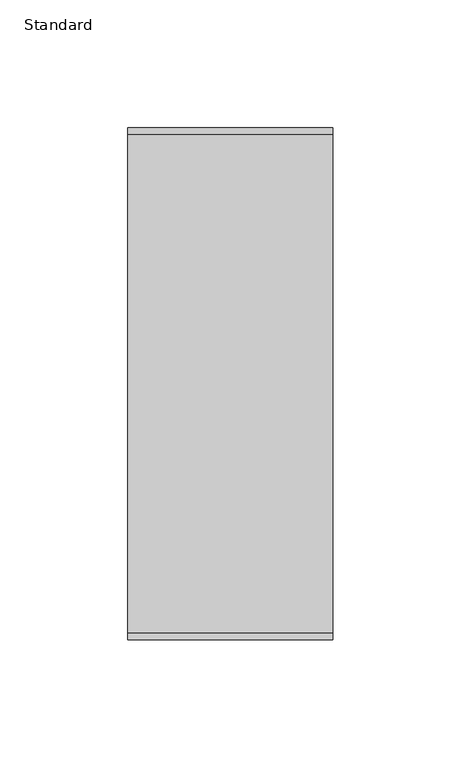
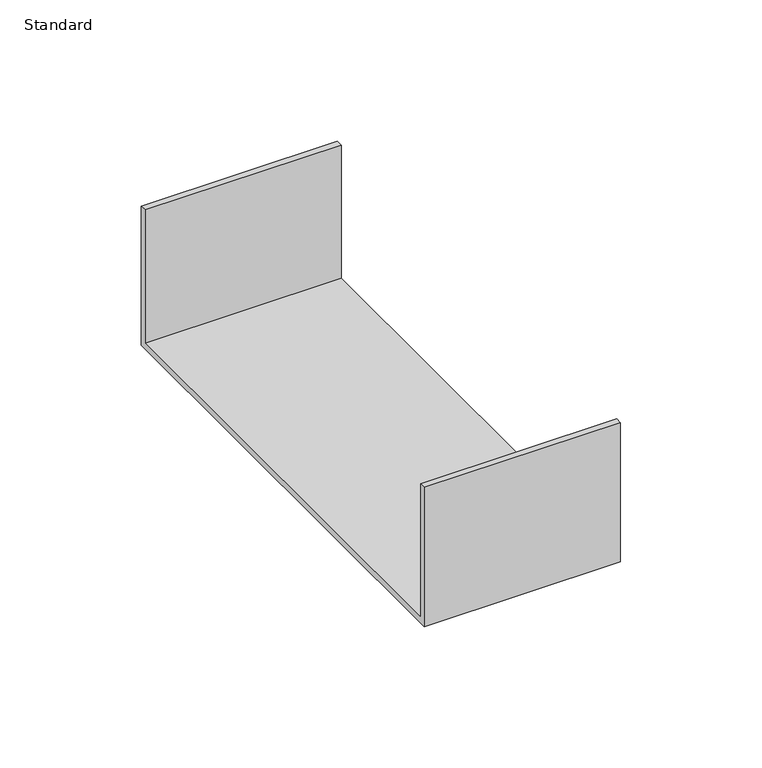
"""IFC4 building model written with IfcOpenShell, lengths in millimetres: cable carrier fitting geometry, Chemin de câbles - Union : Standard."""

import ifcopenshell
import ifcopenshell.guid

model = None  # the IFC model being written
_history = None  # IfcOwnerHistory: only IFC2X3 demands one
_inside = {}  # id of a spatial element -> (the spatial element, [elements in it])
_under = {}  # id of a project, library or spatial element -> (it, [spatial elements below it])
_declared = {}  # id of a project -> (the project, [libraries it declares])
_typed = {}  # id of a type object -> (the type object, [elements of that type])
_made_of = {}  # id of a material, layer set ... -> (it, [elements and type objects made of it])


def new_model(schema):
    """Start an empty IFC model of exactly this schema.

    Asked for "IFC4X3", IfcOpenShell would pick the latest addendum, in which some entities
    have other attributes; the version numbers below select the first issue.
    IFC2X3 requires an IfcOwnerHistory on every rooted entity: one is made here for all.
    """
    global model, _history
    if schema == "IFC4X3":
        model = ifcopenshell.file(schema_version=(4, 3, 0, 0))
    else:
        model = ifcopenshell.file(schema=schema)
    _inside.clear()
    _under.clear()
    _declared.clear()
    _typed.clear()
    _made_of.clear()
    _history = None
    if model.schema == "IFC2X3":
        org = make("IfcOrganization", Name="unknown")
        user = make(
            "IfcPersonAndOrganization",
            ThePerson=make("IfcPerson", FamilyName="unknown"),
            TheOrganization=org,
        )
        app = make(
            "IfcApplication",
            ApplicationDeveloper=org,
            Version="unknown",
            ApplicationFullName="unknown",
            ApplicationIdentifier="unknown",
        )
        _history = make(
            "IfcOwnerHistory",
            OwningUser=user,
            OwningApplication=app,
            ChangeAction="ADDED",
            CreationDate=0,
        )
    return model


def make(cls, **values):
    """One entity of the class cls with the attributes given. An attribute that is None is left unset."""
    return model.create_entity(
        cls, **{name: value for name, value in values.items() if value is not None}
    )


def rooted(cls, **values):
    """An entity with a GlobalId (a new one), such as an element, a storey or a relation."""
    return make(cls, GlobalId=ifcopenshell.guid.new(), OwnerHistory=_history, **values)


def si_unit(unit_type, name, prefix=None):
    """IfcSIUnit, for example si_unit("LENGTHUNIT", "METRE", prefix="MILLI")."""
    return make("IfcSIUnit", UnitType=unit_type, Prefix=prefix, Name=name)


def assignment(units):
    """IfcUnitAssignment: the units of a project."""
    return None if units is None else make("IfcUnitAssignment", Units=units)


def point(xyz):
    """IfcCartesianPoint."""
    return None if xyz is None else make("IfcCartesianPoint", Coordinates=xyz)


def direction(xyz):
    """IfcDirection."""
    return None if xyz is None else make("IfcDirection", DirectionRatios=xyz)


def frame(location, z_axis=None, x_axis=None):
    """IfcAxis2Placement3D, a coordinate frame: its origin and axes. An axis left out is left unset."""
    return make(
        "IfcAxis2Placement3D",
        Location=point(location),
        Axis=direction(z_axis),
        RefDirection=direction(x_axis),
    )


def origin():
    """The frame at (0, 0, 0) with its axes left unset."""
    return frame((0.0, 0.0, 0.0))


def place(relative_to, where):
    """IfcLocalPlacement: puts the frame where relative to a parent placement (None: the world)."""
    return make(
        "IfcLocalPlacement", PlacementRelTo=relative_to, RelativePlacement=where
    )


def context(
    kind, dimensions, precision=None, world=None, true_north=None, identifier=None
):
    """IfcGeometricRepresentationContext, for example the 3D "Model" context."""
    return make(
        "IfcGeometricRepresentationContext",
        ContextIdentifier=identifier,
        ContextType=kind,
        CoordinateSpaceDimension=dimensions,
        Precision=precision,
        WorldCoordinateSystem=world,
        TrueNorth=true_north,
    )


def project(units=None, contexts=None):
    """IfcProject with its units and contexts."""
    return rooted(
        "IfcProject",
        Name="project",
        RepresentationContexts=contexts,
        UnitsInContext=assignment(units),
    )


def spatial(cls, under=None, at=None, **own):
    """A site, building, storey or space (cls), placed at a placement, below another one or the project."""
    s = rooted(cls, ObjectPlacement=at, **own)
    if under is not None:
        _under.setdefault(under.id(), (under, []))[1].append(s)
    return s


def polyline(points):
    """IfcPolyline through the points."""
    return make("IfcPolyline", Points=[point(p) for p in points])


def outline(outer, holes=None, kind="AREA"):
    """IfcArbitraryClosedProfileDef: a profile drawn as a closed curve; with holes, ...WithVoids."""
    if holes is None:
        return make("IfcArbitraryClosedProfileDef", ProfileType=kind, OuterCurve=outer)
    return make(
        "IfcArbitraryProfileDefWithVoids",
        ProfileType=kind,
        OuterCurve=outer,
        InnerCurves=holes,
    )


def extrude(swept, where, along, depth):
    """IfcExtrudedAreaSolid: the profile swept, set in the frame where, extruded along a direction by depth."""
    return make(
        "IfcExtrudedAreaSolid",
        SweptArea=swept,
        Position=where,
        ExtrudedDirection=direction(along),
        Depth=depth,
    )


def shape(context_of_items, identifier, shape_type, items):
    """IfcShapeRepresentation: the items that make up one representation, for example the "Body"."""
    return make(
        "IfcShapeRepresentation",
        ContextOfItems=context_of_items,
        RepresentationIdentifier=identifier,
        RepresentationType=shape_type,
        Items=items,
    )


def source(mapping_origin, context_of_items, identifier, shape_type, items):
    """IfcRepresentationMap: a shape defined once, which mapped items show again and again."""
    return make(
        "IfcRepresentationMap",
        MappingOrigin=mapping_origin,
        MappedRepresentation=shape(context_of_items, identifier, shape_type, items),
    )


def transform(
    local_origin,
    x_axis=None,
    y_axis=None,
    z_axis=None,
    scale=None,
    scale2=None,
    scale3=None,
    uniform=True,
):
    """IfcCartesianTransformationOperator3D, or its non-uniform kind. x_axis, y_axis, z_axis: its Axis1, 2, 3."""
    if uniform:
        return make(
            "IfcCartesianTransformationOperator3D",
            Axis1=direction(x_axis),
            Axis2=direction(y_axis),
            LocalOrigin=point(local_origin),
            Scale=scale,
            Axis3=direction(z_axis),
        )
    return make(
        "IfcCartesianTransformationOperator3DnonUniform",
        Axis1=direction(x_axis),
        Axis2=direction(y_axis),
        LocalOrigin=point(local_origin),
        Scale=scale,
        Axis3=direction(z_axis),
        Scale2=scale2,
        Scale3=scale3,
    )


def mapped(mapping_source, mapping_target):
    """IfcMappedItem: shows the shape of a source again, moved by a transform."""
    return make(
        "IfcMappedItem", MappingSource=mapping_source, MappingTarget=mapping_target
    )


def made_of(thing, what):
    """Note that an element or type object is made of a material, layer set ...; save() writes the relation."""
    if what is not None:
        _made_of.setdefault(what.id(), (what, []))[1].append(thing)
    return thing


def element(
    cls,
    number,
    at=None,
    inside=None,
    cuts=None,
    type_object=None,
    material=None,
    context=None,
    identifier="Body",
    shape_type=None,
    held_by="IfcProductDefinitionShape",
    body=None,
    shapes=None,
    **own,
):
    """One element of the class cls, such as IfcWall. Its Tag is "e" and its number.

    at: its placement. inside: the storey or other place that contains it. cuts: it is an
    opening in that element (IfcRelVoidsElement). A single representation is given by context,
    identifier, shape_type and body (its items); several are given by shapes. held_by: the class
    of the entity that holds the representations. save() writes the other relations.
    """
    e = rooted(cls, Tag="e%d" % number, ObjectPlacement=at, **own)
    if body is not None:
        shapes = [shape(context, identifier, shape_type, body)]
    if shapes is not None:
        e.Representation = make(held_by, Representations=shapes)
    if inside is not None:
        _inside.setdefault(inside.id(), (inside, []))[1].append(e)
    if cuts is not None:
        rooted(
            "IfcRelVoidsElement", RelatingBuildingElement=cuts, RelatedOpeningElement=e
        )
    if type_object is not None:
        _typed.setdefault(type_object.id(), (type_object, []))[1].append(e)
    return made_of(e, material)


def aggregate(whole, parts):
    """IfcRelAggregates: a whole, such as a stair, and the parts it consists of."""
    return rooted("IfcRelAggregates", RelatingObject=whole, RelatedObjects=parts)


def save(model, path):
    """Write the relations noted so far, then the file.

    IfcRelAggregates (storeys below a building ...), IfcRelContainedInSpatialStructure (elements
    in a storey), IfcRelDefinesByType, IfcRelAssociatesMaterial and IfcRelDeclares: one each for
    every whole, place, type object, material and project.
    """
    for whole, parts in _under.values():
        aggregate(whole, parts)
    for where, things in _inside.values():
        rooted(
            "IfcRelContainedInSpatialStructure",
            RelatedElements=things,
            RelatingStructure=where,
        )
    for kind, things in _typed.values():
        rooted("IfcRelDefinesByType", RelatedObjects=things, RelatingType=kind)
    for what, things in _made_of.values():
        rooted("IfcRelAssociatesMaterial", RelatedObjects=things, RelatingMaterial=what)
    for by, libraries in _declared.values():
        rooted("IfcRelDeclares", RelatingContext=by, RelatedDefinitions=libraries)
    model.write(path)


def standard_8ca7ba67(model_context):
    return source(origin(), model_context, "Body", "SweptSolid", [
        extrude(outline(polyline([(-100.0, -30.0), (-100.0, 30.0), (-97.46, 30.0), (-97.46, -27.46), (97.46, -27.46), (97.46, 30.0), (100.0, 30.0), (100.0, -30.0), (-100.0, -30.0)])), frame((0.0, 0.0, 0.0), z_axis=(1.0, 0.0, 0.0), x_axis=(0.0, 1.0, 0.0)), (0.0, 0.0, 1.0), 80.0),
    ])


if __name__ == "__main__":
    model = new_model("IFC4")
    model_context = context("Model", 3, world=origin())
    ifc_project = project(units=[si_unit("LENGTHUNIT", "METRE", prefix="MILLI")], contexts=[model_context])
    site = spatial("IfcSite", under=ifc_project)
    building = spatial("IfcBuilding", under=site)
    placement = place(None, origin())
    standard_shape = standard_8ca7ba67(model_context)
    element("IfcCableCarrierFitting", 1, ObjectType="Chemin de câbles - Union : Standard", at=placement, inside=building, context=model_context, shape_type="MappedRepresentation", body=[
        mapped(standard_shape, transform((0.0, 0.0, 0.0), x_axis=(1.0, 0.0, 0.0), y_axis=(0.0, 1.0, 0.0), z_axis=(0.0, 0.0, 1.0))),
    ])
    save(model, "model.ifc")
